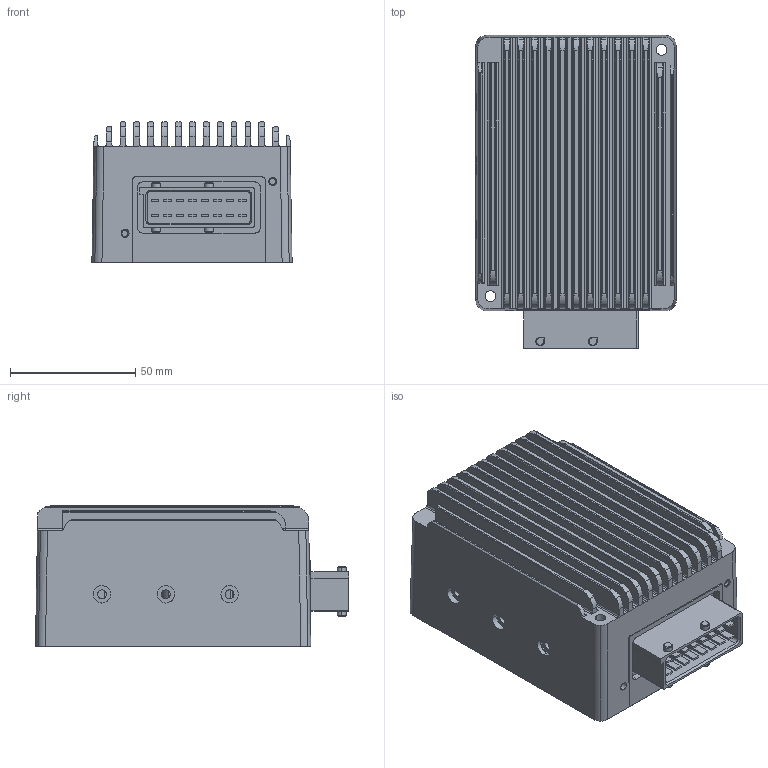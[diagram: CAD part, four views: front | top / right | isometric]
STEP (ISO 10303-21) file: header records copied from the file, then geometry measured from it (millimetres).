
FILE_DESCRIPTION(('STEP AP214'),'1');
FILE_NAME('M:/TSI/DIS-2-Zeichnungen/DIS2_48_10.stp','2014-01-31T13:46:22',(''),(''),'Spatial InterOp 3D',' ',' ');
FILE_SCHEMA(('automotive_design'));
Length unit declared in the file: inch
Products named in the file (149): ACIS-VolumenkÃ¶rper_46; ACIS-VolumenkÃ¶rper_184; ACIS-VolumenkÃ¶rper_216; ACIS-VolumenkÃ¶rper_230; FlÃ¤chenseite_302; FlÃ¤chenseite_326; FlÃ¤chenseite_350; ACIS-VolumenkÃ¶rper_364; ACIS-VolumenkÃ¶rper_369; ACIS-VolumenkÃ¶rper_374; ACIS-VolumenkÃ¶rper_391; ACIS-VolumenkÃ¶rper_453; ACIS-VolumenkÃ¶rper_467; ACIS-VolumenkÃ¶rper_474; ACIS-VolumenkÃ¶rper_500; 1; FlÃ¤chenseite_511; FlÃ¤chenseite_521; FlÃ¤chenseite_529; FlÃ¤chenseite_537; FlÃ¤chenseite_545; FlÃ¤chenseite_555; FlÃ¤chenseite_565; FlÃ¤chenseite_583; FlÃ¤chenseite_591; FlÃ¤chenseite_603; FlÃ¤chenseite_625; FlÃ¤chenseite_631; FlÃ¤chenseite_639; FlÃ¤chenseite_649; FlÃ¤chenseite_671; FlÃ¤chenseite_677; FlÃ¤chenseite_687; 2; FlÃ¤chenseite_695; FlÃ¤chenseite_711; FlÃ¤chenseite_718; 3; FlÃ¤chenseite_733; FlÃ¤chenseite_743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
Bounding box: 79.99 x 125.1 x 56 mm (x, y, z)
Volume: 176599.7 mm3; surface area: 116212.7 mm2
Topology: 13 solids, 145 shells, 1056 faces, 3356 edges, 2783 vertices
Faces by surface type: plane 681, cylinder 347, cone 28
Entity records: 52573 total; most frequent: CARTESIAN_POINT 8028, DIRECTION 6296, ORIENTED_EDGE 5556, EDGE_CURVE 3102, LINE 2578, VECTOR 2578, VERTEX_POINT 2263, AXIS2_PLACEMENT_3D 1859
